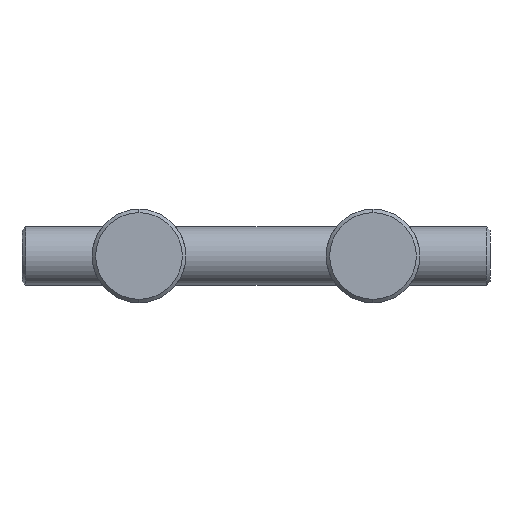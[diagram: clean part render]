
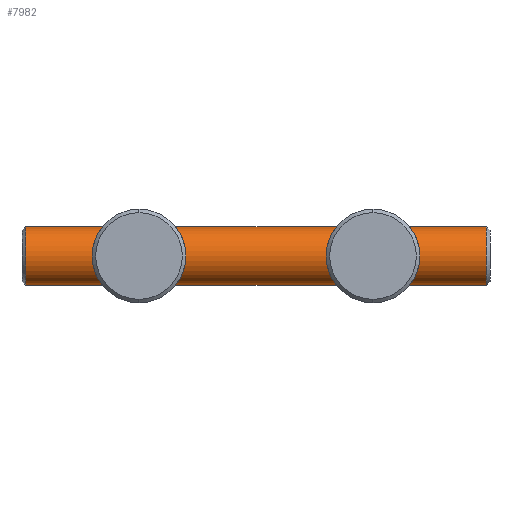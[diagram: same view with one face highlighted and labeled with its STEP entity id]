
A CAD part, front view. The second image highlights one B-rep face of the part: STEP entity #7982.
In plain terms, the highlighted cylindrical face has radius 2.5 mm (diameter 5 mm), a partial arc.
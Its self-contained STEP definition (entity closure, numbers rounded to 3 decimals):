
#9 = CIRCLE ( 'NONE', #2704, 2.5 ) ;
#168 = AXIS2_PLACEMENT_3D ( 'NONE', #11267, #3722, #10362 ) ;
#217 = CARTESIAN_POINT ( 'NONE',  ( -2.5, 0., 19.7 ) ) ;
#1653 = DIRECTION ( 'NONE',  ( 0., 0., 1. ) ) ;
#2235 = CARTESIAN_POINT ( 'NONE',  ( 2.5, 0., 19.7 ) ) ;
#2515 = AXIS2_PLACEMENT_3D ( 'NONE', #8565, #11274, #9407 ) ;
#2704 = AXIS2_PLACEMENT_3D ( 'NONE', #7966, #4997, #11639 ) ;
#2839 = ORIENTED_EDGE ( 'NONE', *, *, #9205, .T. ) ;
#3687 = LINE ( 'NONE', #7371, #11571 ) ;
#3722 = DIRECTION ( 'NONE',  ( 0., 0., -1. ) ) ;
#4020 = CARTESIAN_POINT ( 'NONE',  ( -2.5, 0., -19.7 ) ) ;
#4132 = VERTEX_POINT ( 'NONE', #2235 ) ;
#4876 = FACE_OUTER_BOUND ( 'NONE', #11580, .T. ) ;
#4997 = DIRECTION ( 'NONE',  ( 0., 0., 1. ) ) ;
#5509 = CARTESIAN_POINT ( 'NONE',  ( 2.5, 0., -19.7 ) ) ;
#5584 = VECTOR ( 'NONE', #10766, 1000. ) ;
#5834 = EDGE_CURVE ( 'NONE', #4132, #10461, #10021, .T. ) ;
#6171 = VERTEX_POINT ( 'NONE', #4020 ) ;
#6185 = ORIENTED_EDGE ( 'NONE', *, *, #6463, .F. ) ;
#6204 = ORIENTED_EDGE ( 'NONE', *, *, #6960, .T. ) ;
#6463 = EDGE_CURVE ( 'NONE', #6171, #10461, #11614, .T. ) ;
#6689 = CYLINDRICAL_SURFACE ( 'NONE', #2515, 2.5 ) ;
#6731 = VERTEX_POINT ( 'NONE', #5509 ) ;
#6960 = EDGE_CURVE ( 'NONE', #6731, #4132, #3687, .T. ) ;
#7371 = CARTESIAN_POINT ( 'NONE',  ( 2.5, 0., 0. ) ) ;
#7741 = ORIENTED_EDGE ( 'NONE', *, *, #5834, .T. ) ;
#7966 = CARTESIAN_POINT ( 'NONE',  ( 0., 0., -19.7 ) ) ;
#7982 = ADVANCED_FACE ( 'NONE', ( #4876 ), #6689, .T. ) ;
#8565 = CARTESIAN_POINT ( 'NONE',  ( 0., 0., 0. ) ) ;
#9205 = EDGE_CURVE ( 'NONE', #6171, #6731, #9, .T. ) ;
#9407 = DIRECTION ( 'NONE',  ( 1., 0., 0. ) ) ;
#10021 = CIRCLE ( 'NONE', #168, 2.5 ) ;
#10362 = DIRECTION ( 'NONE',  ( 1., 0., 0. ) ) ;
#10461 = VERTEX_POINT ( 'NONE', #217 ) ;
#10587 = CARTESIAN_POINT ( 'NONE',  ( -2.5, 0., 0. ) ) ;
#10766 = DIRECTION ( 'NONE',  ( 0., 0., 1. ) ) ;
#11267 = CARTESIAN_POINT ( 'NONE',  ( 0., 0., 19.7 ) ) ;
#11274 = DIRECTION ( 'NONE',  ( 0., 0., 1. ) ) ;
#11571 = VECTOR ( 'NONE', #1653, 1000. ) ;
#11580 = EDGE_LOOP ( 'NONE', ( #6185, #2839, #6204, #7741 ) ) ;
#11614 = LINE ( 'NONE', #10587, #5584 ) ;
#11639 = DIRECTION ( 'NONE',  ( -1., 0., 0. ) ) ;
